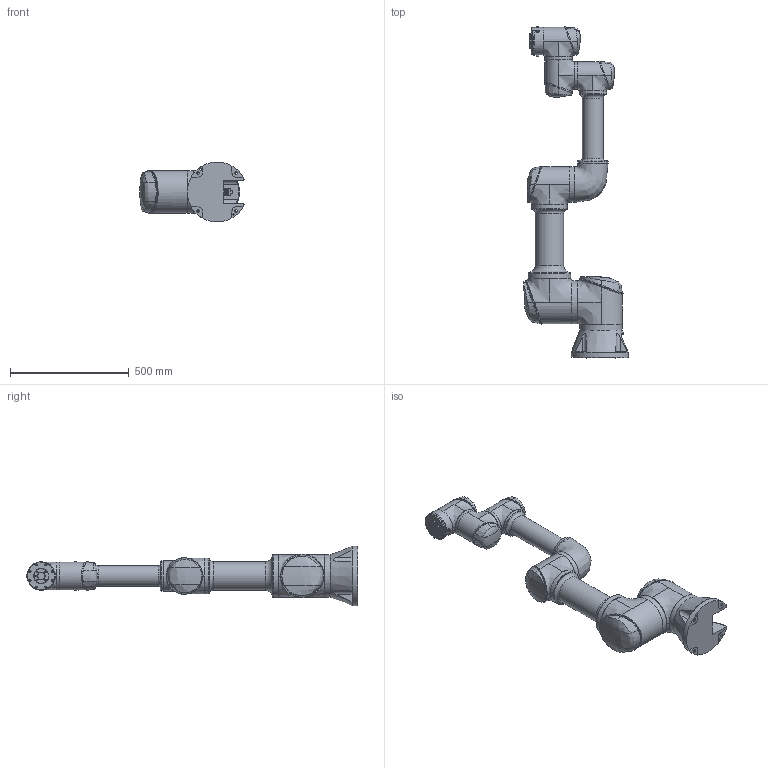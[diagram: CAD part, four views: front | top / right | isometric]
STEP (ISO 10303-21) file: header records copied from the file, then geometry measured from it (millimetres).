
FILE_DESCRIPTION (( 'STEP AP214' ), '1' );
FILE_NAME ('GCR30-1100-.STEP', '2024-02-06T01:17:07', ( '' ), ( '' ), 'SwSTEP 2.0', 'SolidWorks 2017', '' );
FILE_SCHEMA (( 'AUTOMOTIVE_DESIGN' ));
Length unit declared in the file: millimetre
Products named in the file (15): GCR30-J0_1; GCR30-J3_1; GCR30-1100-; GCR30-J2_1; GCR30-J6_1; GCR30-J5_1; GCR30-J4_1; GCR30-J1_1
Assembly tree (7 placements, depth 2):
  GCR30-J3_1
  GCR30-1100-
    GCR30-J0_1
    GCR30-J1_1
    GCR30-J2_1
    GCR30-J3_1
    GCR30-J4_1
    GCR30-J5_1
    GCR30-J6_1
  GCR30-J6_1
  GCR30-J0_1
  GCR30-J4_1
Bounding box: 439.79 x 1399 x 252 mm (x, y, z)
Volume: 32947330 mm3; surface area: 2038231.9 mm2
Topology: 30 solids, 46 shells, 1655 faces, 4050 edges, 2646 vertices
Faces by surface type: plane 900, cylinder 426, bspline 233, torus 52, cone 42, sphere 2
Full cylindrical faces by diameter (mm): 0.56 x1, 0.785 x1, 0.95 x1, 1.05 x1, 1.75 x1, 1.9 x1, 2 x2, 2.3 x1, 2.5 x6, 2.6 x12, 3 x13, 3.05 x1, 3.2 x3, 3.5 x2, 3.8 x13, 4 x8, 4.25 x1, 4.5 x8, 4.8 x2, 5 x6, 5.8 x1, 6 x8, 6.5 x1, 6.8 x2, 7 x8, 8 x8, 8.9 x2, 11 x6, 14 x2, 16 x2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
Entity records: 149958 total; most frequent: CARTESIAN_POINT 113588, ORIENTED_EDGE 7502, DIRECTION 6439, EDGE_CURVE 3751, VERTEX_POINT 2582, AXIS2_PLACEMENT_3D 2231, EDGE_LOOP 2121, LINE 1977
